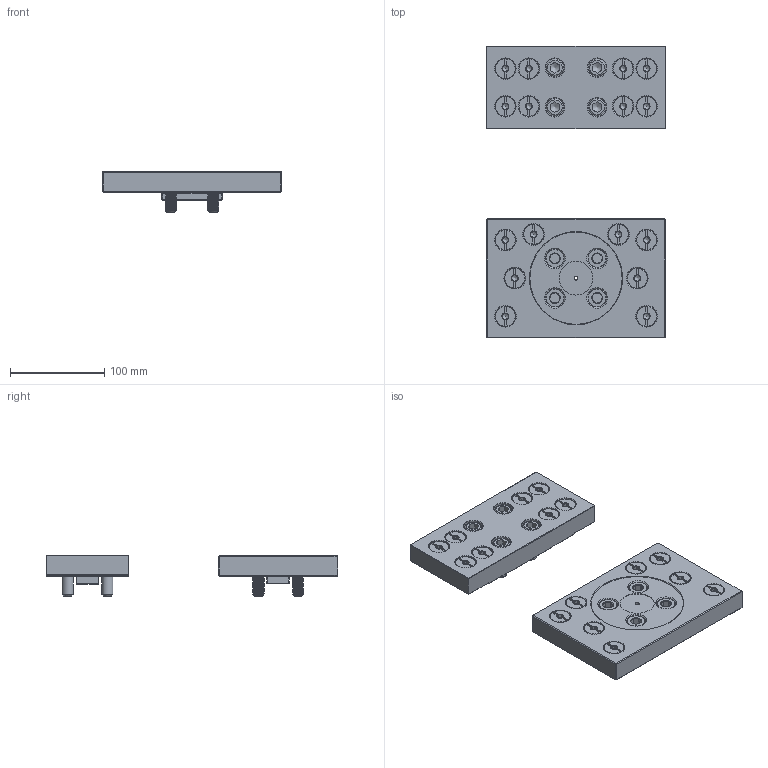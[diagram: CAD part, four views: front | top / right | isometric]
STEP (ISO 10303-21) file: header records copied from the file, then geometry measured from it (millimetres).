
FILE_DESCRIPTION(('STEP AP214'), '1');
FILE_NAME('BB.VS.130.33.010', '', ('UNSPECIFIED'), ('UNSPECIFIED'), 'C3D Converter', 'C3D Toolkit', '');
FILE_SCHEMA(('AUTOMOTIVE_DESIGN { 1 0 10303 214 3 1 1}'));
Length unit declared in the file: millimetre
Bounding box: 190 x 310 x 43.5 mm (x, y, z)
Volume: 893151.1 mm3; surface area: 162836 mm2
Topology: 2 solids, 14 shells, 1133 faces, 2778 edges, 1752 vertices
Faces by surface type: plane 659, cylinder 260, cone 190, torus 12, bspline 12
Full cylindrical faces by diameter (mm): 4.2 x1, 10 x16, 10.106 x16, 10.2 x8, 12 x8, 13 x4, 18 x4, 19.2 x4, 20 x8, 21.5 x16, 22 x16, 36 x1
Entity records: 93485 total; most frequent: CARTESIAN_POINT 59608, ORIENTED_EDGE 5012, DIRECTION 4834, EDGE_CURVE 2506, AXIS2_PLACEMENT_3D 1834, VERTEX_POINT 1720, EDGE_LOOP 1470, LINE 1166
